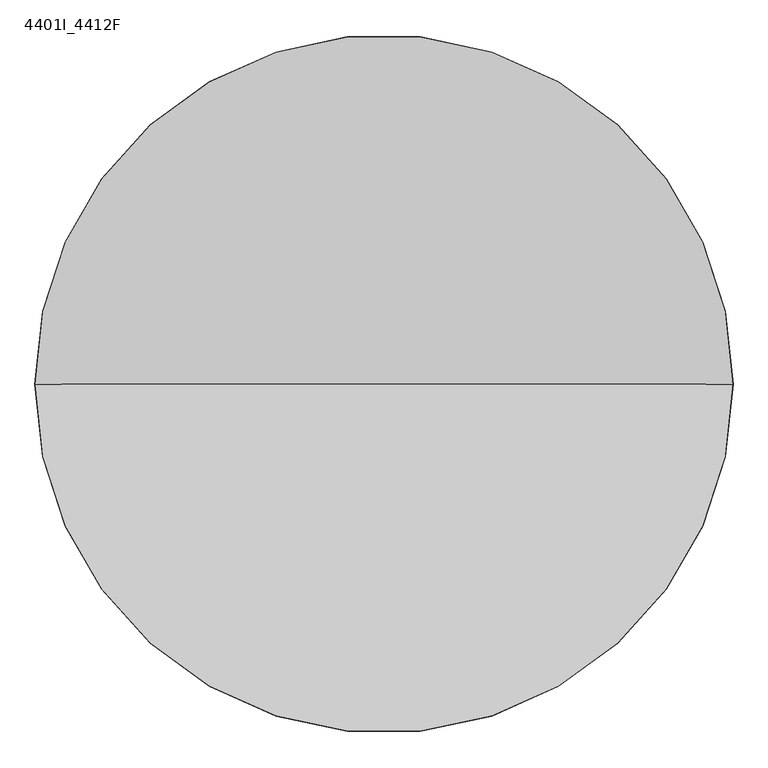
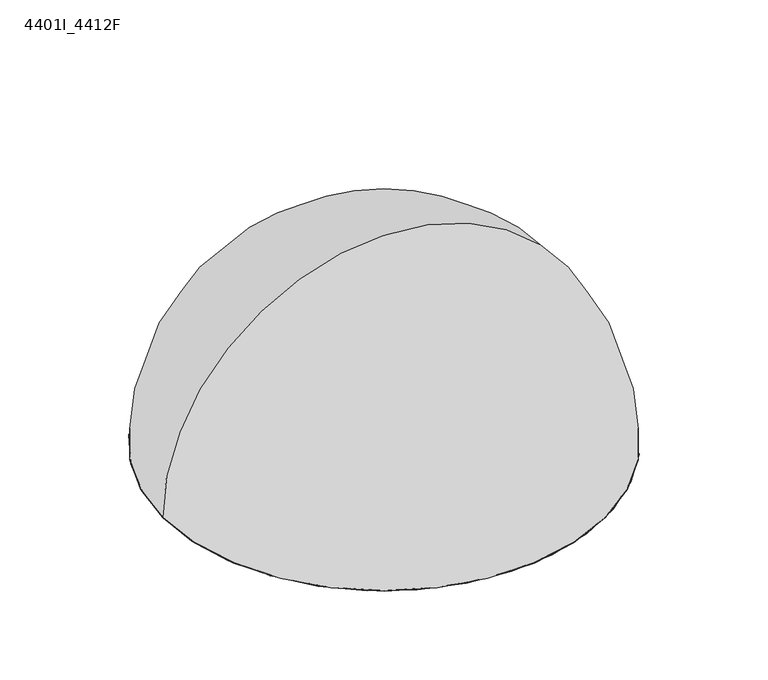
"""IFC4 building model written with IfcOpenShell, lengths in millimetres: alarm geometry, 4401I_Analog Smoke Detector : 4401I_4412F."""

from ifc_helpers import new_model, si_unit, point, frame, origin, origin_with_axes, origin_2d, place, context, project, spatial, polyline, circle_curve, ellipse_curve, trimmed, segment, composite_curve, outline, extrude, source, transform, mapped, element, save
from ifc_brep_helpers import plane_surface, cylinder_surface, revolved_surface, advanced_brep


def alarm_4401i_4412f_19216551(model_context):
    return source(origin(), model_context, "Body", "SolidModel", [
        advanced_brep(
        [(49.4021885, 0.0, 27.3), (-49.4021885, 0.0, 27.3), (-25.0, 0.0, 35.5055913), (25.0, 0.0, 35.5055913), (46.9790343, 0.0, 27.3), (-46.9790343, 0.0, 27.3), (22.5768458, 0.0, 35.5055913), (-22.5768458, 0.0, 35.5055913)],
        [
            (0, 1, circle_curve(frame((0.0, 0.0, 27.3), z_axis=(0.0, 0.0, 1.0), x_axis=(-1.0, 0.0, 0.0)), 49.4021885)),
            (1, 2),
            (2, 3, circle_curve(frame((0.0, 0.0, 35.5055913), z_axis=(0.0, 0.0, -1.0), x_axis=(-1.0, 0.0, 0.0)), 25.0)),
            (3, 0),
            (1, 0, circle_curve(frame((0.0, 0.0, 27.3), z_axis=(0.0, 0.0, 1.0), x_axis=(-1.0, 0.0, 0.0)), 49.4021885)),
            (3, 2, circle_curve(frame((0.0, 0.0, 35.5055913), z_axis=(0.0, 0.0, -1.0), x_axis=(-1.0, 0.0, 0.0)), 25.0)),
            (4, 5, circle_curve(frame((0.0, 0.0, 27.3), z_axis=(0.0, 0.0, 1.0), x_axis=(-1.0, 0.0, 0.0)), 46.9790343)),
            (5, 1),
            (0, 4),
            (5, 4, circle_curve(frame((0.0, 0.0, 27.3), z_axis=(0.0, 0.0, 1.0), x_axis=(-1.0, 0.0, 0.0)), 46.9790343)),
            (6, 7, circle_curve(frame((0.0, 0.0, 35.5055913), z_axis=(0.0, 0.0, 1.0), x_axis=(-1.0, 0.0, 0.0)), 22.5768458)),
            (7, 5),
            (4, 6),
            (7, 6, circle_curve(frame((0.0, 0.0, 35.5055913), z_axis=(0.0, 0.0, 1.0), x_axis=(-1.0, 0.0, 0.0)), 22.5768458)),
            (2, 7),
            (6, 3),
        ],
        [
            revolved_surface(polyline([(-25.0, 0.0, 35.5055913), (-49.4021885, 0.0, 27.3)]), (0.0, 0.0, 2617.6581012), (0.0, 0.0, -1.0)),
            plane_surface(frame((0.0, 0.0, 27.3), z_axis=(0.0, 0.0, -1.0), x_axis=(-1.0, 0.0, 0.0))),
            revolved_surface(polyline([(-46.9790343, 0.0, 27.3), (-22.5768458, 0.0, 35.5055913)]), (0.0, 0.0, 2617.6581012), (0.0, 0.0, -1.0)),
            plane_surface(frame((0.0, 0.0, 35.5055913), z_axis=(0.0, 0.0, 1.0), x_axis=(-1.0, 0.0, 0.0))),
        ],
        [
            (0, [[1, 2, 3, 4]]),
            (0, [[5, -4, 6, -2]]),
            (1, [[7, 8, -1, 9]]),
            (1, [[10, -9, -5, -8]]),
            (2, [[11, 12, -7, 13]]),
            (2, [[14, -13, -10, -12]]),
            (3, [[-3, 15, -11, 16]]),
            (3, [[-6, -16, -14, -15]]),
        ],
    ),
        advanced_brep(
        [(-25.0, 0.0, 48.6055913), (25.0, 0.0, 48.6055913), (-10.2364426, 22.8082275, 35.5055913), (-7.8171012, 23.7464298, 35.5055913), (-6.566365, 19.9470011, 35.5055913), (-0.7601379, 20.9862381, 35.5055913), (-0.7748533, 24.9879892, 35.5055913), (1.8194655, 24.933703, 35.5055913), (1.528351, 20.9443105, 35.5055913), (7.2926143, 19.6930895, 35.5055913), (8.8036125, 23.3986411, 35.5055913), (11.1815896, 22.3600549, 35.5055913), (9.3925353, 18.7824461, 35.5055913), (14.2453716, 15.4294973, 35.5055913), (17.0541691, 18.2799157, 35.5055913), (18.857118, 16.4136864, 35.5055913), (15.8399791, 13.7874966, 35.5055913), (19.0494019, 8.8385682, 35.5055913), (22.7323284, 10.4039053, 35.5055913), (23.688298, 7.9915291, 35.5055913), (19.8981703, 6.7128844, 35.5055913), (20.9800803, 0.9144573, 35.5055913), (24.9816149, 0.9586025, 35.5055913), (25.0, 0.0, 35.5055913), (24.9464097, -1.6360453, 35.5055913), (20.9549841, -1.3742781, 35.5055913), (19.7461893, -7.1475874, 35.5055913), (23.4627531, -8.6312929, 35.5055913), (22.4416834, -11.0168438, 35.5055913), (18.851014, -9.2541488, 35.5055913), (15.5338454, -14.1315126, 35.5055913), (18.4048435, -16.9192711, 35.5055913), (16.5519242, -18.7358962, 35.5055913), (13.9036163, -15.7381528, 35.5055913), (8.978425, -18.9838849, 35.5055913), (10.5708052, -22.6551998, 35.5055913), (8.1655248, -23.628885, 35.5055913), (6.8590408, -19.8482634, 35.5055913), (1.0687273, -20.9727877, 35.5055913), (1.1422999, -24.9738894, 35.5055913), (-1.4525367, -24.9577671, 35.5055913), (-1.2201308, -20.9645243, 35.5055913), (-7.0021739, -19.7982211, 35.5055913), (-8.4585064, -23.5255961, 35.5055913), (-10.8515021, -22.5220981, 35.5055913), (-9.1152617, -18.9185624, 35.5055913), (-14.0168893, -15.6373532, 35.5055913), (-16.7834581, -18.5287758, 35.5055913), (-18.613661, -16.6892667, 35.5055913), (-15.6354753, -14.018984, 35.5055913), (-18.9173411, -9.1177961, 35.5055913), (-22.5768458, -10.7371334, 35.5055913), (-23.5681939, -8.3390788, 35.5055913), (-19.7972829, -7.0048262, 35.5055913), (-20.9643607, -1.2229394, 35.5055913), (-24.9648131, -1.3259355, 35.5055913), (-25.0, 0.0, 35.5055913), (-24.9677746, 1.2689495, 35.5055913), (-20.9729306, 1.0659176, 35.5055913), (-19.8491821, 6.8563817, 35.5055913), (-23.5871666, 8.2852624, 35.5055913), (-22.2772169, 11.3457307, 35.5055913), (-18.7128622, 9.5304138, 35.5055913), (-15.3243147, 14.3584602, 35.5055913), (-18.1539992, 17.1881446, 35.5055913), (-16.2745608, 18.9773199, 35.5055913), (-13.6706311, 15.9409487, 35.5055913), (-8.6982334, 19.1138885, 35.5055913), (-24.9648131, -1.3259355, 44.2055913), (-23.5681939, -8.3390788, 44.2055913), (-22.5768458, -10.7371334, 44.2055913), (-18.613661, -16.6892667, 44.2055913), (-16.7834581, -18.5287758, 44.2055913), (-10.8515021, -22.5220981, 44.2055913), (-8.4585064, -23.5255961, 44.2055913), (-1.4525367, -24.9577671, 44.2055913), (1.1422999, -24.9738894, 44.2055913), (8.1655248, -23.628885, 44.2055913), (10.5708052, -22.6551998, 44.2055913), (16.5519242, -18.7358962, 44.2055913), (18.4048435, -16.9192711, 44.2055913), (22.4416834, -11.0168438, 44.2055913), (23.4627531, -8.6312929, 44.2055913), (24.9464097, -1.6360453, 44.2055913), (24.9816149, 0.9586025, 44.2055913), (23.688298, 7.9915291, 44.2055913), (22.7323284, 10.4039053, 44.2055913), (18.857118, 16.4136864, 44.2055913), (17.0541691, 18.2799157, 44.2055913), (11.1815896, 22.3600549, 44.2055913), (8.8036125, 23.3986411, 44.2055913), (1.8194655, 24.933703, 44.2055913), (-0.7748533, 24.9879892, 44.2055913), (-7.8171012, 23.7464298, 44.2055913), (-10.2364426, 22.8082275, 44.2055913), (-16.2745608, 18.9773199, 44.2055913), (-18.1539992, 17.1881446, 44.2055913), (-22.2772169, 11.3457307, 44.2055913), (-23.5871666, 8.2852624, 44.2055913), (-24.9677746, 1.2689495, 44.2055913), (-8.6982334, 19.1138885, 44.2055913), (-13.6706311, 15.9409487, 44.2055913), (-0.7601379, 20.9862381, 44.2055913), (-6.566365, 19.9470011, 44.2055913), (7.2926143, 19.6930895, 44.2055913), (1.528351, 20.9443105, 44.2055913), (14.2453716, 15.4294973, 44.2055913), (9.3925353, 18.7824461, 44.2055913), (19.0494019, 8.8385682, 44.2055913), (15.8399791, 13.7874966, 44.2055913), (20.9800803, 0.9144573, 44.2055913), (19.8981703, 6.7128844, 44.2055913), (19.7461893, -7.1475874, 44.2055913), (20.9549841, -1.3742781, 44.2055913), (15.5338454, -14.1315126, 44.2055913), (18.851014, -9.2541488, 44.2055913), (8.978425, -18.9838849, 44.2055913), (13.9036163, -15.7381528, 44.2055913), (1.0687273, -20.9727877, 44.2055913), (6.8590408, -19.8482634, 44.2055913), (-7.0021739, -19.7982211, 44.2055913), (-1.2201308, -20.9645243, 44.2055913), (-14.0168893, -15.6373532, 44.2055913), (-9.1152617, -18.9185624, 44.2055913), (-18.9173411, -9.1177961, 44.2055913), (-15.6354753, -14.018984, 44.2055913), (-20.9643607, -1.2229394, 44.2055913), (-19.7972829, -7.0048262, 44.2055913), (-19.8491821, 6.8563817, 44.2055913), (-20.9729306, 1.0659176, 44.2055913), (-15.3243147, 14.3584602, 44.2055913), (-18.7128622, 9.5304138, 44.2055913)],
        [
            (0, 1, circle_curve(frame((0.0, 0.0, 48.6055913), z_axis=(0.0, 0.0, 1.0), x_axis=(1.0, 0.0, 0.0)), 25.0)),
            (1, 0, circle_curve(frame((0.0, 0.0, 48.6055913), z_axis=(0.0, 0.0, 1.0), x_axis=(1.0, 0.0, 0.0)), 25.0)),
            (2, 3, circle_curve(frame((0.0, 0.0, 35.5055913), z_axis=(0.0, 0.0, -1.0), x_axis=(1.0, 0.0, 0.0)), 25.0)),
            (3, 4),
            (4, 5, circle_curve(frame((0.0, 0.0, 35.5055913), z_axis=(0.0, 0.0, -1.0), x_axis=(0.7097021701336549, -0.7045018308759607, 0.0)), 21.0)),
            (5, 6),
            (6, 7, circle_curve(frame((0.0, 0.0, 35.5055913), z_axis=(0.0, 0.0, -1.0), x_axis=(1.0, 0.0, 0.0)), 25.0)),
            (7, 8),
            (8, 9, circle_curve(frame((0.0, 0.0, 35.5055913), z_axis=(0.0, 0.0, -1.0), x_axis=(0.38777352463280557, -0.9217546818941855, 0.0)), 21.0)),
            (9, 10),
            (10, 11, circle_curve(frame((0.0, 0.0, 35.5055913), z_axis=(0.0, 0.0, -1.0), x_axis=(1.0, 0.0, 0.0)), 25.0)),
            (11, 12),
            (12, 13, circle_curve(frame((0.0, 0.0, 35.5055913), z_axis=(0.0, 0.0, -1.0), x_axis=(0.0073543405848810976, -0.9999729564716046, 0.0)), 21.0)),
            (13, 14),
            (14, 15, circle_curve(frame((0.0, 0.0, 35.5055913), z_axis=(0.0, 0.0, -1.0), x_axis=(1.0, 0.0, 0.0)), 25.0)),
            (15, 16),
            (16, 17, circle_curve(frame((0.0, 0.0, 35.5055913), z_axis=(0.0, 0.0, -1.0), x_axis=(-0.3741741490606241, -0.9273584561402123, 0.0)), 21.0)),
            (17, 18),
            (18, 19, circle_curve(frame((0.0, 0.0, 35.5055913), z_axis=(0.0, 0.0, -1.0), x_axis=(1.0, 0.0, 0.0)), 25.0)),
            (19, 20),
            (20, 21, circle_curve(frame((0.0, 0.0, 35.5055913), z_axis=(0.0, 0.0, -1.0), x_axis=(-0.6992633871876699, -0.7148641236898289, 0.0)), 21.0)),
            (21, 22),
            (22, 23, circle_curve(frame((0.0, 0.0, 35.5055913), z_axis=(0.0, 0.0, -1.0), x_axis=(1.0, 0.0, 0.0)), 25.0)),
            (23, 24, circle_curve(frame((0.0, 0.0, 35.5055913), z_axis=(0.0, 0.0, -1.0), x_axis=(1.0, 0.0, 0.0)), 25.0)),
            (24, 25),
            (25, 26, circle_curve(frame((0.0, 0.0, 35.5055913), z_axis=(0.0, 0.0, -1.0), x_axis=(-0.9188779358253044, -0.39454193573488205, 0.0)), 21.0)),
            (26, 27),
            (27, 28, circle_curve(frame((0.0, 0.0, 35.5055913), z_axis=(0.0, 0.0, -1.0), x_axis=(1.0, 0.0, 0.0)), 25.0)),
            (28, 29),
            (29, 30, circle_curve(frame((0.0, 0.0, 35.5055913), z_axis=(0.0, 0.0, -1.0), x_axis=(-0.9998918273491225, -0.014708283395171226, 0.0)), 21.0)),
            (30, 31),
            (31, 32, circle_curve(frame((0.0, 0.0, 35.5055913), z_axis=(0.0, 0.0, -1.0), x_axis=(1.0, 0.0, 0.0)), 25.0)),
            (32, 33),
            (33, 34, circle_curve(frame((0.0, 0.0, 35.5055913), z_axis=(0.0, 0.0, -1.0), x_axis=(-0.9300851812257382, 0.3673439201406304, 0.0)), 21.0)),
            (34, 35),
            (35, 36, circle_curve(frame((0.0, 0.0, 35.5055913), z_axis=(0.0, 0.0, -1.0), x_axis=(1.0, 0.0, 0.0)), 25.0)),
            (36, 37),
            (37, 38, circle_curve(frame((0.0, 0.0, 35.5055913), z_axis=(0.0, 0.0, -1.0), x_axis=(-0.7199874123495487, 0.6939871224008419, 0.0)), 21.0)),
            (38, 39),
            (39, 40, circle_curve(frame((0.0, 0.0, 35.5055913), z_axis=(0.0, 0.0, -1.0), x_axis=(1.0, 0.0, 0.0)), 25.0)),
            (40, 41),
            (41, 42, circle_curve(frame((0.0, 0.0, 35.5055913), z_axis=(0.0, 0.0, -1.0), x_axis=(-0.4012890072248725, 0.9159514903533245, 0.0)), 21.0)),
            (42, 43),
            (43, 44, circle_curve(frame((0.0, 0.0, 35.5055913), z_axis=(0.0, 0.0, -1.0), x_axis=(1.0, 0.0, 0.0)), 25.0)),
            (44, 45),
            (45, 46, circle_curve(frame((0.0, 0.0, 35.5055913), z_axis=(0.0, 0.0, -1.0), x_axis=(-0.022061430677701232, 0.9997566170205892, 0.0)), 21.0)),
            (46, 47),
            (47, 48, circle_curve(frame((0.0, 0.0, 35.5055913), z_axis=(0.0, 0.0, -1.0), x_axis=(1.0, 0.0, 0.0)), 25.0)),
            (48, 49),
            (49, 50, circle_curve(frame((0.0, 0.0, 35.5055913), z_axis=(0.0, 0.0, -1.0), x_axis=(0.36049382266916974, 0.9327616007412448, 0.0)), 21.0)),
            (50, 51),
            (51, 52, circle_curve(frame((0.0, 0.0, 35.5055913), z_axis=(0.0, 0.0, -1.0), x_axis=(1.0, 0.0, 0.0)), 25.0)),
            (52, 53),
            (53, 54, circle_curve(frame((0.0, 0.0, 35.5055913), z_axis=(0.0, 0.0, -1.0), x_axis=(0.6886733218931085, 0.7250717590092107, 0.0)), 21.0)),
            (54, 55),
            (55, 56, circle_curve(frame((0.0, 0.0, 35.5055913), z_axis=(0.0, 0.0, -1.0), x_axis=(1.0, 0.0, 0.0)), 25.0)),
            (56, 57, circle_curve(frame((0.0, 0.0, 35.5055913), z_axis=(0.0, 0.0, -1.0), x_axis=(1.0, 0.0, 0.0)), 25.0)),
            (57, 58),
            (58, 59, circle_curve(frame((0.0, 0.0, 35.5055913), z_axis=(0.0, 0.0, -1.0), x_axis=(0.9129755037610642, 0.4080143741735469, 0.0)), 21.0)),
            (59, 60),
            (60, 61, circle_curve(frame((0.0, 0.0, 35.5055913), z_axis=(0.0, 0.0, -1.0), x_axis=(1.0, 0.0, 0.0)), 25.0)),
            (61, 62),
            (62, 63, circle_curve(frame((0.0, 0.0, 35.5055913), z_axis=(0.0, 0.0, -1.0), x_axis=(1.0, 0.0, 0.0)), 21.0)),
            (63, 64),
            (64, 65, circle_curve(frame((0.0, 0.0, 35.5055913), z_axis=(0.0, 0.0, -1.0), x_axis=(1.0, 0.0, 0.0)), 25.0)),
            (65, 66),
            (66, 67, circle_curve(frame((0.0, 0.0, 35.5055913), z_axis=(0.0, 0.0, -1.0), x_axis=(0.9245815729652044, -0.3809841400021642, 0.0)), 21.0)),
            (67, 2),
            (0, 56),
            (55, 68),
            (68, 69, circle_curve(frame((0.0, 0.0, 44.2055913), z_axis=(0.0, 0.0, 1.0), x_axis=(1.0, 0.0, 0.0)), 25.0)),
            (69, 52),
            (51, 70),
            (70, 71, circle_curve(frame((0.0, 0.0, 44.2055913), z_axis=(0.0, 0.0, 1.0), x_axis=(1.0, 0.0, 0.0)), 25.0)),
            (71, 48),
            (47, 72),
            (72, 73, circle_curve(frame((0.0, 0.0, 44.2055913), z_axis=(0.0, 0.0, 1.0), x_axis=(1.0, 0.0, 0.0)), 25.0)),
            (73, 44),
            (43, 74),
            (74, 75, circle_curve(frame((0.0, 0.0, 44.2055913), z_axis=(0.0, 0.0, 1.0), x_axis=(1.0, 0.0, 0.0)), 25.0)),
            (75, 40),
            (39, 76),
            (76, 77, circle_curve(frame((0.0, 0.0, 44.2055913), z_axis=(0.0, 0.0, 1.0), x_axis=(1.0, 0.0, 0.0)), 25.0)),
            (77, 36),
            (35, 78),
            (78, 79, circle_curve(frame((0.0, 0.0, 44.2055913), z_axis=(0.0, 0.0, 1.0), x_axis=(1.0, 0.0, 0.0)), 25.0)),
            (79, 32),
            (31, 80),
            (80, 81, circle_curve(frame((0.0, 0.0, 44.2055913), z_axis=(0.0, 0.0, 1.0), x_axis=(1.0, 0.0, 0.0)), 25.0)),
            (81, 28),
            (27, 82),
            (82, 83, circle_curve(frame((0.0, 0.0, 44.2055913), z_axis=(0.0, 0.0, 1.0), x_axis=(1.0, 0.0, 0.0)), 25.0)),
            (83, 24),
            (23, 1),
            (22, 84),
            (84, 85, circle_curve(frame((0.0, 0.0, 44.2055913), z_axis=(0.0, 0.0, 1.0), x_axis=(1.0, 0.0, 0.0)), 25.0)),
            (85, 19),
            (18, 86),
            (86, 87, circle_curve(frame((0.0, 0.0, 44.2055913), z_axis=(0.0, 0.0, 1.0), x_axis=(1.0, 0.0, 0.0)), 25.0)),
            (87, 15),
            (14, 88),
            (88, 89, circle_curve(frame((0.0, 0.0, 44.2055913), z_axis=(0.0, 0.0, 1.0), x_axis=(1.0, 0.0, 0.0)), 25.0)),
            (89, 11),
            (10, 90),
            (90, 91, circle_curve(frame((0.0, 0.0, 44.2055913), z_axis=(0.0, 0.0, 1.0), x_axis=(1.0, 0.0, 0.0)), 25.0)),
            (91, 7),
            (6, 92),
            (92, 93, circle_curve(frame((0.0, 0.0, 44.2055913), z_axis=(0.0, 0.0, 1.0), x_axis=(1.0, 0.0, 0.0)), 25.0)),
            (93, 3),
            (2, 94),
            (94, 95, circle_curve(frame((0.0, 0.0, 44.2055913), z_axis=(0.0, 0.0, 1.0), x_axis=(1.0, 0.0, 0.0)), 25.0)),
            (95, 65),
            (64, 96),
            (96, 97, circle_curve(frame((0.0, 0.0, 44.2055913), z_axis=(0.0, 0.0, 1.0), x_axis=(1.0, 0.0, 0.0)), 25.0)),
            (97, 61),
            (60, 98),
            (98, 99, circle_curve(frame((0.0, 0.0, 44.2055913), z_axis=(0.0, 0.0, 1.0), x_axis=(1.0, 0.0, 0.0)), 25.0)),
            (99, 57),
            (100, 101, circle_curve(frame((0.0, 0.0, 44.2055913), z_axis=(0.0, 0.0, 1.0), x_axis=(0.9245815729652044, -0.3809841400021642, 0.0)), 21.0)),
            (101, 95),
            (94, 100),
            (102, 103, circle_curve(frame((0.0, 0.0, 44.2055913), z_axis=(0.0, 0.0, 1.0), x_axis=(0.7097021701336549, -0.7045018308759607, 0.0)), 21.0)),
            (103, 93),
            (92, 102),
            (104, 105, circle_curve(frame((0.0, 0.0, 44.2055913), z_axis=(0.0, 0.0, 1.0), x_axis=(0.38777352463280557, -0.9217546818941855, 0.0)), 21.0)),
            (105, 91),
            (90, 104),
            (106, 107, circle_curve(frame((0.0, 0.0, 44.2055913), z_axis=(0.0, 0.0, 1.0), x_axis=(0.0073543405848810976, -0.9999729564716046, 0.0)), 21.0)),
            (107, 89),
            (88, 106),
            (108, 109, circle_curve(frame((0.0, 0.0, 44.2055913), z_axis=(0.0, 0.0, 1.0), x_axis=(-0.3741741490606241, -0.9273584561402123, 0.0)), 21.0)),
            (109, 87),
            (86, 108),
            (110, 111, circle_curve(frame((0.0, 0.0, 44.2055913), z_axis=(0.0, 0.0, 1.0), x_axis=(-0.6992633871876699, -0.7148641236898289, 0.0)), 21.0)),
            (111, 85),
            (84, 110),
            (112, 113, circle_curve(frame((0.0, 0.0, 44.2055913), z_axis=(0.0, 0.0, 1.0), x_axis=(-0.9188779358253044, -0.39454193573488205, 0.0)), 21.0)),
            (113, 83),
            (82, 112),
            (114, 115, circle_curve(frame((0.0, 0.0, 44.2055913), z_axis=(0.0, 0.0, 1.0), x_axis=(-0.9998918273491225, -0.014708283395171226, 0.0)), 21.0)),
            (115, 81),
            (80, 114),
            (116, 117, circle_curve(frame((0.0, 0.0, 44.2055913), z_axis=(0.0, 0.0, 1.0), x_axis=(-0.9300851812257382, 0.3673439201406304, 0.0)), 21.0)),
            (117, 79),
            (78, 116),
            (118, 119, circle_curve(frame((0.0, 0.0, 44.2055913), z_axis=(0.0, 0.0, 1.0), x_axis=(-0.7199874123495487, 0.6939871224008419, 0.0)), 21.0)),
            (119, 77),
            (76, 118),
            (120, 121, circle_curve(frame((0.0, 0.0, 44.2055913), z_axis=(0.0, 0.0, 1.0), x_axis=(-0.4012890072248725, 0.9159514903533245, 0.0)), 21.0)),
            (121, 75),
            (74, 120),
            (122, 123, circle_curve(frame((0.0, 0.0, 44.2055913), z_axis=(0.0, 0.0, 1.0), x_axis=(-0.022061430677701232, 0.9997566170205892, 0.0)), 21.0)),
            (123, 73),
            (72, 122),
            (124, 125, circle_curve(frame((0.0, 0.0, 44.2055913), z_axis=(0.0, 0.0, 1.0), x_axis=(0.36049382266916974, 0.9327616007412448, 0.0)), 21.0)),
            (125, 71),
            (70, 124),
            (126, 127, circle_curve(frame((0.0, 0.0, 44.2055913), z_axis=(0.0, 0.0, 1.0), x_axis=(0.6886733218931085, 0.7250717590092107, 0.0)), 21.0)),
            (127, 69),
            (68, 126),
            (128, 129, circle_curve(frame((0.0, 0.0, 44.2055913), z_axis=(0.0, 0.0, 1.0), x_axis=(0.9129755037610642, 0.4080143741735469, 0.0)), 21.0)),
            (129, 99),
            (98, 128),
            (130, 131, circle_curve(frame((0.0, 0.0, 44.2055913), z_axis=(0.0, 0.0, 1.0), x_axis=(1.0, 0.0, 0.0)), 21.0)),
            (131, 97),
            (96, 130),
            (100, 67),
            (66, 101),
            (102, 5),
            (4, 103),
            (104, 9),
            (8, 105),
            (106, 13),
            (12, 107),
            (108, 17),
            (16, 109),
            (110, 21),
            (20, 111),
            (26, 112),
            (113, 25),
            (30, 114),
            (115, 29),
            (34, 116),
            (117, 33),
            (119, 37),
            (118, 38),
            (42, 120),
            (121, 41),
            (46, 122),
            (123, 45),
            (125, 49),
            (124, 50),
            (127, 53),
            (126, 54),
            (128, 59),
            (58, 129),
            (130, 63),
            (62, 131),
        ],
        [
            plane_surface(frame((25.0, 0.0, 48.6055913), z_axis=(0.0, 0.0, 1.0), x_axis=(0.0, 1.0, 0.0))),
            plane_surface(frame((25.0, 0.0, 35.5055913), z_axis=(0.0, 0.0, -1.0), x_axis=(0.0, -1.0, 0.0))),
            cylinder_surface(frame((0.0, 0.0, 35.5055913), z_axis=(0.0, 0.0, 1.0), x_axis=(1.0, 0.0, 0.0)), 25.0),
            plane_surface(frame((19.416213, -8.0006669, 44.2055913), z_axis=(0.0, 0.0, -1.0), x_axis=(-0.38098414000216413, -0.9245815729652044, 0.0))),
            cylinder_surface(frame((0.0, 0.0, 35.5055913), z_axis=(0.0, 0.0, -1.0000000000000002), x_axis=(0.9245815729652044, -0.3809841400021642, 0.0)), 21.0),
            plane_surface(frame((-8.6982334, 19.1138885, 44.2055913), z_axis=(-0.9231743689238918, -0.3843814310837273, 0.0), x_axis=(0.0, 0.0, -1.0))),
            plane_surface(frame((-18.8784906, 22.0136911, 44.2055913), z_axis=(0.7590927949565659, 0.6509824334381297, 0.0), x_axis=(0.0, 0.0, -1.0))),
            cylinder_surface(frame((0.0, 0.0, 8.6), z_axis=(0.0, 0.0, -1.0), x_axis=(0.7097021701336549, -0.7045018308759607, 0.0)), 21.0),
            plane_surface(frame((-0.7601379, 20.9862381, 44.2055913), z_axis=(-0.9999932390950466, -0.0036771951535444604, 0.0), x_axis=(0.0, 0.0, -1.0))),
            plane_surface(frame((-9.0678374, 27.5458586, 44.2055913), z_axis=(0.9498571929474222, 0.3126840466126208, 0.0), x_axis=(0.0, 0.0, -1.0))),
            cylinder_surface(frame((0.0, 0.0, 8.6), z_axis=(0.0, 0.0, -1.0000000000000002), x_axis=(0.38777352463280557, -0.9217546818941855, 0.0)), 21.0),
            plane_surface(frame((7.2926143, 19.6930895, 44.2055913), z_axis=(-0.9259762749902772, 0.37758169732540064, 0.0), x_axis=(0.0, 0.0, -1.0))),
            plane_surface(frame((2.1105799, 28.9230955, 44.2055913), z_axis=(0.9973481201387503, -0.07277861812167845, 0.0), x_axis=(0.0, 0.0, -1.0))),
            cylinder_surface(frame((0.0, 0.0, 8.6), z_axis=(0.0, 0.0, -1.0), x_axis=(0.0073543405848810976, -0.9999729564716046, 0.0)), 21.0),
            plane_surface(frame((14.2453716, 15.4294973, 44.2055913), z_axis=(-0.7122879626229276, 0.7018873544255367, 0.0), x_axis=(0.0, 0.0, -1.0))),
            plane_surface(frame((12.970644, 25.9376636, 44.2055913), z_axis=(0.8944021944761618, -0.44726358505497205, 0.0), x_axis=(0.0, 0.0, -1.0))),
            cylinder_surface(frame((0.0, 0.0, 8.6), z_axis=(0.0, 0.0, -1.0000000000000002), x_axis=(-0.3741741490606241, -0.9273584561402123, 0.0)), 21.0),
            plane_surface(frame((19.0494019, 8.8385682, 44.2055913), z_axis=(-0.39116037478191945, 0.9203225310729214, 0.0), x_axis=(0.0, 0.0, -1.0))),
            plane_surface(frame((21.8742569, 19.0398762, 44.2055913), z_axis=(0.6565474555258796, -0.7542847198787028, 0.0), x_axis=(0.0, 0.0, -1.0))),
            cylinder_surface(frame((0.0, 0.0, 8.6), z_axis=(0.0, 0.0, -1.0), x_axis=(-0.6992633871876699, -0.7148641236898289, 0.0)), 21.0),
            plane_surface(frame((20.9800803, 0.9144573, 44.2055913), z_axis=(-0.011031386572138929, 0.999939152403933, 0.0), x_axis=(0.0, 0.0, -1.0))),
            plane_surface(frame((27.4784257, 9.2701738, 44.2055913), z_axis=(0.3196611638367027, -0.9475319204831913, 0.0), x_axis=(0.0, 0.0, -1.0))),
            plane_surface(frame((19.7461893, -7.1475874, 44.2055913), z_axis=(0.37076154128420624, 0.9287280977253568, 0.0), x_axis=(0.0, 0.0, -1.0))),
            plane_surface(frame((28.9378352, -1.8978126, 44.2055913), z_axis=(-0.06544181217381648, -0.9978563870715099, 0.0), x_axis=(0.0, 0.0, -1.0))),
            cylinder_surface(frame((0.0, 0.0, 8.6), z_axis=(0.0, 0.0, -1.0), x_axis=(-0.9188779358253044, -0.39454193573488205, 0.0)), 21.0),
            plane_surface(frame((15.5338454, -14.1315126, 44.2055913), z_axis=(0.6966299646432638, 0.7174306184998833, 0.0), x_axis=(0.0, 0.0, -1.0))),
            plane_surface(frame((26.0323527, -12.7795388, 44.2055913), z_axis=(-0.44067375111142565, -0.8976673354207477, 0.0), x_axis=(0.0, 0.0, -1.0))),
            cylinder_surface(frame((0.0, 0.0, 8.6), z_axis=(0.0, 0.0, -1.0), x_axis=(-0.9998918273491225, -0.014708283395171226, 0.0)), 21.0),
            plane_surface(frame((8.978425, -18.9838849, 44.2055913), z_axis=(0.9174209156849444, 0.39791816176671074, 0.0), x_axis=(0.0, 0.0, -1.0))),
            plane_surface(frame((19.200232, -21.7336396, 44.2055913), z_axis=(-0.7494358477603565, -0.6620769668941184, 0.0), x_axis=(0.0, 0.0, -1.0))),
            cylinder_surface(frame((0.0, 0.0, 8.6), z_axis=(0.0, 0.0, -1.0000000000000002), x_axis=(-0.9300851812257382, 0.3673439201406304, 0.0)), 21.0),
            plane_surface(frame((9.4720088, -27.4095066, 44.2055913), z_axis=(-0.945155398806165, -0.3266209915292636, 0.0), x_axis=(0.0, 0.0, -1.0))),
            cylinder_surface(frame((0.0, 0.0, 8.6), z_axis=(0.0, 0.0, -1.0000000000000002), x_axis=(-0.7199874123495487, 0.6939871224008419, 0.0)), 21.0),
            plane_surface(frame((1.0687273, -20.9727877, 44.2055913), z_axis=(0.9998309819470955, 0.01838498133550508, 0.0), x_axis=(0.0, 0.0, -1.0))),
            plane_surface(frame((-7.0021739, -19.7982211, 44.2055913), z_axis=(0.9314296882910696, -0.3639213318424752, 0.0), x_axis=(0.0, 0.0, -1.0))),
            plane_surface(frame((-1.6849425, -28.9510098, 44.2055913), z_axis=(-0.9983106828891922, 0.058101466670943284, 0.0), x_axis=(0.0, 0.0, -1.0))),
            cylinder_surface(frame((0.0, 0.0, 8.6), z_axis=(0.0, 0.0, -1.0), x_axis=(-0.4012890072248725, 0.9159514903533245, 0.0)), 21.0),
            plane_surface(frame((-14.0168893, -15.6373532, 44.2055913), z_axis=(0.7225344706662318, -0.691334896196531, 0.0), x_axis=(0.0, 0.0, -1.0))),
            plane_surface(frame((-12.5877424, -26.1256338, 44.2055913), z_axis=(-0.9008839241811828, 0.43406008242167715, 0.0), x_axis=(0.0, 0.0, -1.0))),
            cylinder_surface(frame((0.0, 0.0, 8.6), z_axis=(0.0, 0.0, -1.0), x_axis=(-0.022061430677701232, 0.9997566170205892, 0.0)), 21.0),
            plane_surface(frame((-21.5918468, -19.3595494, 44.2055913), z_axis=(-0.6675706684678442, 0.7445464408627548, 0.0), x_axis=(0.0, 0.0, -1.0))),
            cylinder_surface(frame((0.0, 0.0, 8.6), z_axis=(0.0, 0.0, -1.0000000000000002), x_axis=(0.36049382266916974, 0.9327616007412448, 0.0)), 21.0),
            plane_surface(frame((-18.9173411, -9.1177961, 44.2055913), z_axis=(0.4046544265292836, -0.914469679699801, 0.0), x_axis=(0.0, 0.0, -1.0))),
            plane_surface(frame((-27.3391049, -9.6733314, 44.2055913), z_axis=(-0.3335631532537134, 0.9427277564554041, 0.0), x_axis=(0.0, 0.0, -1.0))),
            cylinder_surface(frame((0.0, 0.0, 8.6), z_axis=(0.0, 0.0, -1.0), x_axis=(0.6886733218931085, 0.7250717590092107, 0.0)), 21.0),
            plane_surface(frame((-20.9643607, -1.2229394, 44.2055913), z_axis=(0.025737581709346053, -0.9996687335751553, 0.0), x_axis=(0.0, 0.0, -1.0))),
            cylinder_surface(frame((0.0, 0.0, 8.6), z_axis=(0.0, 0.0, -1.0), x_axis=(0.9129755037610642, 0.4080143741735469, 0.0)), 21.0),
            plane_surface(frame((-19.8491821, 6.8563817, 44.2055913), z_axis=(-0.35706143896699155, -0.9340809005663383, 0.0), x_axis=(0.0, 0.0, -1.0))),
            plane_surface(frame((-28.9626185, 1.4719814, 44.2055913), z_axis=(0.05075797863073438, 0.998710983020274, 0.0), x_axis=(0.0, 0.0, -1.0))),
            cylinder_surface(frame((0.0, 0.0, 8.6), z_axis=(0.0, 0.0, -1.0), x_axis=(1.0, 0.0, 0.0)), 21.0),
            plane_surface(frame((-15.3243147, 14.3584602, 44.2055913), z_axis=(-0.7071067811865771, -0.7071067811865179, 0.0), x_axis=(0.0, 0.0, -1.0))),
            plane_surface(frame((-25.8415717, 13.1610476, 44.2055913), z_axis=(0.45382922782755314, 0.8910886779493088, 0.0), x_axis=(0.0, 0.0, -1.0))),
        ],
        [
            (0, [[1, 2]]),
            (1, [[3, 4, 5, 6, 7, 8, 9, 10, 11, 12, 13, 14, 15, 16, 17, 18, 19, 20, 21, 22, 23, 24, 25, 26, 27, 28, 29, 30, 31, 32, 33, 34, 35, 36, 37, 38, 39, 40, 41, 42, 43, 44, 45, 46, 47, 48, 49, 50, 51, 52, 53, 54, 55, 56, 57, 58, 59, 60, 61, 62, 63, 64, 65, 66, 67, 68]]),
            (2, [[-1, 69, -56, 70, 71, 72, -52, 73, 74, 75, -48, 76, 77, 78, -44, 79, 80, 81, -40, 82, 83, 84, -36, 85, 86, 87, -32, 88, 89, 90, -28, 91, 92, 93, -24, 94]]),
            (2, [[-2, -94, -23, 95, 96, 97, -19, 98, 99, 100, -15, 101, 102, 103, -11, 104, 105, 106, -7, 107, 108, 109, -3, 110, 111, 112, -65, 113, 114, 115, -61, 116, 117, 118, -57, -69]]),
            (3, [[119, 120, -111, 121]]),
            (3, [[122, 123, -108, 124]]),
            (3, [[125, 126, -105, 127]]),
            (3, [[128, 129, -102, 130]]),
            (3, [[131, 132, -99, 133]]),
            (3, [[134, 135, -96, 136]]),
            (3, [[137, 138, -92, 139]]),
            (3, [[140, 141, -89, 142]]),
            (3, [[143, 144, -86, 145]]),
            (3, [[146, 147, -83, 148]]),
            (3, [[149, 150, -80, 151]]),
            (3, [[152, 153, -77, 154]]),
            (3, [[155, 156, -74, 157]]),
            (3, [[158, 159, -71, 160]]),
            (3, [[161, 162, -117, 163]]),
            (3, [[164, 165, -114, 166]]),
            (4, [[-119, 167, -67, 168]]),
            (5, [[-167, -121, -110, -68]]),
            (6, [[-168, -66, -112, -120]]),
            (7, [[-122, 169, -5, 170]]),
            (8, [[-169, -124, -107, -6]]),
            (9, [[-170, -4, -109, -123]]),
            (10, [[-125, 171, -9, 172]]),
            (11, [[-171, -127, -104, -10]]),
            (12, [[-172, -8, -106, -126]]),
            (13, [[-128, 173, -13, 174]]),
            (14, [[-173, -130, -101, -14]]),
            (15, [[-174, -12, -103, -129]]),
            (16, [[-131, 175, -17, 176]]),
            (17, [[-175, -133, -98, -18]]),
            (18, [[-176, -16, -100, -132]]),
            (19, [[-134, 177, -21, 178]]),
            (20, [[-177, -136, -95, -22]]),
            (21, [[-178, -20, -97, -135]]),
            (22, [[179, -139, -91, -27]]),
            (23, [[180, -25, -93, -138]]),
            (24, [[-137, -179, -26, -180]]),
            (25, [[181, -142, -88, -31]]),
            (26, [[182, -29, -90, -141]]),
            (27, [[-140, -181, -30, -182]]),
            (28, [[183, -145, -85, -35]]),
            (29, [[184, -33, -87, -144]]),
            (30, [[-143, -183, -34, -184]]),
            (31, [[185, -37, -84, -147]]),
            (32, [[-146, 186, -38, -185]]),
            (33, [[-186, -148, -82, -39]]),
            (34, [[187, -151, -79, -43]]),
            (35, [[188, -41, -81, -150]]),
            (36, [[-149, -187, -42, -188]]),
            (37, [[189, -154, -76, -47]]),
            (38, [[190, -45, -78, -153]]),
            (39, [[-152, -189, -46, -190]]),
            (40, [[191, -49, -75, -156]]),
            (41, [[-155, 192, -50, -191]]),
            (42, [[-192, -157, -73, -51]]),
            (43, [[193, -53, -72, -159]]),
            (44, [[-158, 194, -54, -193]]),
            (45, [[-194, -160, -70, -55]]),
            (46, [[-161, 195, -59, 196]]),
            (47, [[-195, -163, -116, -60]]),
            (48, [[-196, -58, -118, -162]]),
            (49, [[-164, 197, -63, 198]]),
            (50, [[-197, -166, -113, -64]]),
            (51, [[-198, -62, -115, -165]]),
        ],
    ),
        advanced_brep(
        [(25.0, 0.0, 27.3), (-25.0, 0.0, 27.3), (-25.0, 0.0, 25.6), (25.0, 0.0, 25.6), (49.4021885, 0.0, 27.3), (-49.4021885, 0.0, 27.3), (51.0000836, 0.0, 25.6), (-51.0000836, 0.0, 25.6)],
        [
            (0, 1, circle_curve(frame((0.0, 0.0, 27.3), z_axis=(0.0, 0.0, 1.0), x_axis=(-1.0, 0.0, 0.0)), 25.0)),
            (1, 2),
            (2, 3, circle_curve(frame((0.0, 0.0, 25.6), z_axis=(0.0, 0.0, -1.0), x_axis=(-1.0, 0.0, 0.0)), 25.0)),
            (3, 0),
            (1, 0, circle_curve(frame((0.0, 0.0, 27.3), z_axis=(0.0, 0.0, 1.0), x_axis=(-1.0, 0.0, 0.0)), 25.0)),
            (3, 2, circle_curve(frame((0.0, 0.0, 25.6), z_axis=(0.0, 0.0, -1.0), x_axis=(-1.0, 0.0, 0.0)), 25.0)),
            (4, 5, circle_curve(frame((0.0, 0.0, 27.3), z_axis=(0.0, 0.0, 1.0), x_axis=(-1.0, 0.0, 0.0)), 49.4021885)),
            (5, 1),
            (0, 4),
            (5, 4, circle_curve(frame((0.0, 0.0, 27.3), z_axis=(0.0, 0.0, 1.0), x_axis=(-1.0, 0.0, 0.0)), 49.4021885)),
            (6, 7, circle_curve(frame((0.0, 0.0, 25.6), z_axis=(0.0, 0.0, 1.0), x_axis=(-1.0, 0.0, 0.0)), 51.0000836)),
            (7, 5, circle_curve(frame((-49.2482507, 0.0, 25.5543466), z_axis=(0.0, 1.0, 0.0), x_axis=(1.0, 0.0, 0.0)), 1.7524276)),
            (4, 6, circle_curve(frame((49.2482507, 0.0, 25.5543466), z_axis=(0.0, 1.0, 0.0), x_axis=(-1.0, 0.0, 0.0)), 1.7524276)),
            (7, 6, circle_curve(frame((0.0, 0.0, 25.6), z_axis=(0.0, 0.0, 1.0), x_axis=(-1.0, 0.0, 0.0)), 51.0000836)),
            (2, 7),
            (6, 3),
        ],
        [
            revolved_surface(polyline([(-25.0, 0.0, 25.59999999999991), (-25.0, 0.0, 27.300000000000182)]), (0.0, 0.0, 2617.6581012), (0.0, 0.0, -1.0)),
            plane_surface(frame((0.0, 0.0, 27.3), z_axis=(0.0, 0.0, 1.0), x_axis=(-1.0, 0.0, 0.0))),
            revolved_surface(trimmed(ellipse_curve(frame((-49.2482507, 0.0, 25.5543466), z_axis=(0.0, -1.0, 0.0), x_axis=(1.0, 0.0, 0.0)), 1.7524276, 1.7524276), [point((-49.4021885, 0.0, 27.3))], [point((-51.0000836, 0.0, 25.6))], True, "CARTESIAN"), (0.0, 0.0, 2617.6581012), (0.0, 0.0, -1.0)),
            plane_surface(frame((0.0, 0.0, 25.6), z_axis=(0.0, 0.0, -1.0), x_axis=(-1.0, 0.0, 0.0))),
        ],
        [
            (0, [[1, 2, 3, 4]]),
            (0, [[5, -4, 6, -2]]),
            (1, [[7, 8, -1, 9]]),
            (1, [[10, -9, -5, -8]]),
            (2, [[11, 12, -7, 13]]),
            (2, [[14, -13, -10, -12]]),
            (3, [[-3, 15, -11, 16]]),
            (3, [[-6, -16, -14, -15]]),
        ],
    ),
        extrude(outline(composite_curve([segment(trimmed(circle_curve(origin_2d(), 51.0), [point((-51.0, 0.0))], [point((51.0, 0.0))], False, "CARTESIAN"), True, "CONTINUOUS"), segment(trimmed(circle_curve(origin_2d(), 51.0), [point((51.0, 0.0))], [point((-51.0, 0.0))], False, "CARTESIAN"), True, "CONTINUOUS")], self_intersect=False), holes=[composite_curve([segment(trimmed(circle_curve(origin_2d(), 25.0), [point((-25.0, 0.0))], [point((25.0, 0.0))], True, "CARTESIAN"), True, "CONTINUOUS"), segment(trimmed(circle_curve(origin_2d(), 25.0), [point((25.0, 0.0))], [point((-25.0, 0.0))], True, "CARTESIAN"), True, "CONTINUOUS")], self_intersect=False)]), frame((0.0, 0.0, 14.6), z_axis=(0.0, 0.0, 1.0), x_axis=(1.0, 0.0, 0.0)), (0.0, 0.0, 1.0), 11.0),
        advanced_brep(
        [(-29.5, -2.5, 0.0), (-29.5, -2.5, 14.6), (-27.0, 0.0, 14.6), (-29.5, 2.5, 14.6), (-29.5, 2.5, 0.0), (-27.0, 0.0, 0.0), (-39.0, 2.5, 14.6), (-39.0, 2.5, 0.0), (-41.5, 0.0, 14.6), (-39.0, -2.5, 14.6), (-39.0, -2.5, 0.0), (-41.5, 0.0, 0.0), (29.5, -2.5, 0.0), (29.5, -2.5, 14.6), (39.0, -2.5, 14.6), (39.0, -2.5, 0.0), (41.5, 0.0, 14.6), (39.0, 2.5, 14.6), (39.0, 2.5, 0.0), (41.5, 0.0, 0.0), (29.5, 2.5, 14.6), (29.5, 2.5, 0.0), (27.0, 0.0, 0.0), (27.0, 0.0, 14.6), (51.0, 0.0, 14.6), (-51.0, 0.0, 14.6), (-48.5, 0.0, 14.6), (48.5, 0.0, 14.6), (51.0, 0.0, 0.0), (-51.0, 0.0, 0.0), (19.0126301, 0.0, 0.0), (-19.0126301, 0.0, 0.0), (44.5, 0.0, 14.6), (-44.5, 0.0, 14.6), (-19.0126301, 0.0, 14.6), (19.0126301, 0.0, 14.6), (44.5, 0.0, 23.3), (-44.5, 0.0, 23.3), (48.5, 0.0, 23.3), (-48.5, 0.0, 23.3)],
        [
            (0, 1),
            (1, 2, circle_curve(frame((-29.5, 0.0, 14.6), z_axis=(0.0, 0.0, 1.0), x_axis=(1.0, 0.0, 0.0)), 2.5)),
            (2, 3, circle_curve(frame((-29.5, 0.0, 14.6), z_axis=(0.0, 0.0, 1.0), x_axis=(1.0, 0.0, 0.0)), 2.5)),
            (3, 4),
            (4, 5, circle_curve(frame((-29.5, 0.0, 0.0), z_axis=(0.0, 0.0, -1.0), x_axis=(1.0, 0.0, 0.0)), 2.5)),
            (5, 0, circle_curve(frame((-29.5, 0.0, 0.0), z_axis=(0.0, 0.0, -1.0), x_axis=(1.0, 0.0, 0.0)), 2.5)),
            (3, 6),
            (6, 7),
            (7, 4),
            (6, 8, circle_curve(frame((-39.0, 0.0, 14.6), z_axis=(0.0, 0.0, 1.0), x_axis=(1.0, 0.0, 0.0)), 2.5)),
            (8, 9, circle_curve(frame((-39.0, 0.0, 14.6), z_axis=(0.0, 0.0, 1.0), x_axis=(1.0, 0.0, 0.0)), 2.5)),
            (9, 10),
            (10, 11, circle_curve(frame((-39.0, 0.0, 0.0), z_axis=(0.0, 0.0, -1.0), x_axis=(1.0, 0.0, 0.0)), 2.5)),
            (11, 7, circle_curve(frame((-39.0, 0.0, 0.0), z_axis=(0.0, 0.0, -1.0), x_axis=(1.0, 0.0, 0.0)), 2.5)),
            (0, 10),
            (9, 1),
            (12, 13),
            (13, 14),
            (14, 15),
            (15, 12),
            (14, 16, circle_curve(frame((39.0, 0.0, 14.6), z_axis=(0.0, 0.0, 1.0), x_axis=(1.0, 0.0, 0.0)), 2.5)),
            (16, 17, circle_curve(frame((39.0, 0.0, 14.6), z_axis=(0.0, 0.0, 1.0), x_axis=(1.0, 0.0, 0.0)), 2.5)),
            (17, 18),
            (18, 19, circle_curve(frame((39.0, 0.0, 0.0), z_axis=(0.0, 0.0, -1.0), x_axis=(1.0, 0.0, 0.0)), 2.5)),
            (19, 15, circle_curve(frame((39.0, 0.0, 0.0), z_axis=(0.0, 0.0, -1.0), x_axis=(1.0, 0.0, 0.0)), 2.5)),
            (17, 20),
            (20, 21),
            (21, 18),
            (12, 22, circle_curve(frame((29.5, 0.0, 0.0), z_axis=(0.0, 0.0, -1.0), x_axis=(1.0, 0.0, 0.0)), 2.5)),
            (22, 21, circle_curve(frame((29.5, 0.0, 0.0), z_axis=(0.0, 0.0, -1.0), x_axis=(1.0, 0.0, 0.0)), 2.5)),
            (20, 23, circle_curve(frame((29.5, 0.0, 14.6), z_axis=(0.0, 0.0, 1.0), x_axis=(1.0, 0.0, 0.0)), 2.5)),
            (23, 13, circle_curve(frame((29.5, 0.0, 14.6), z_axis=(0.0, 0.0, 1.0), x_axis=(1.0, 0.0, 0.0)), 2.5)),
            (24, 25, circle_curve(frame((0.0, 0.0, 14.6), z_axis=(0.0, 0.0, 1.0), x_axis=(-1.0, 0.0, 0.0)), 51.0)),
            (25, 26),
            (26, 27, circle_curve(frame((0.0, 0.0, 14.6), z_axis=(0.0, 0.0, -1.0), x_axis=(-1.0, 0.0, 0.0)), 48.5)),
            (27, 24),
            (25, 24, circle_curve(frame((0.0, 0.0, 14.6), z_axis=(0.0, 0.0, 1.0), x_axis=(-1.0, 0.0, 0.0)), 51.0)),
            (27, 26, circle_curve(frame((0.0, 0.0, 14.6), z_axis=(0.0, 0.0, -1.0), x_axis=(-1.0, 0.0, 0.0)), 48.5)),
            (24, 28),
            (28, 29, circle_curve(frame((0.0, 0.0, 0.0), z_axis=(0.0, 0.0, 1.0), x_axis=(-1.0, 0.0, 0.0)), 51.0)),
            (29, 25),
            (29, 28, circle_curve(frame((0.0, 0.0, 0.0), z_axis=(0.0, 0.0, 1.0), x_axis=(-1.0, 0.0, 0.0)), 51.0)),
            (28, 19),
            (22, 30),
            (30, 31, circle_curve(origin_with_axes(), 19.0126301)),
            (31, 5),
            (11, 29),
            (31, 30, circle_curve(origin_with_axes(), 19.0126301)),
            (32, 33, circle_curve(frame((0.0, 0.0, 14.6), z_axis=(0.0, 0.0, 1.0), x_axis=(-1.0, 0.0, 0.0)), 44.5)),
            (33, 8),
            (2, 34),
            (34, 35, circle_curve(frame((0.0, 0.0, 14.6), z_axis=(0.0, 0.0, -1.0), x_axis=(1.0, 0.0, 0.0)), 19.0126301)),
            (35, 23),
            (16, 32),
            (33, 32, circle_curve(frame((0.0, 0.0, 14.6), z_axis=(0.0, 0.0, 1.0), x_axis=(-1.0, 0.0, 0.0)), 44.5)),
            (35, 34, circle_curve(frame((0.0, 0.0, 14.6), z_axis=(0.0, 0.0, -1.0), x_axis=(1.0, 0.0, 0.0)), 19.0126301)),
            (32, 36),
            (36, 37, circle_curve(frame((0.0, 0.0, 23.3), z_axis=(0.0, 0.0, 1.0), x_axis=(-1.0, 0.0, 0.0)), 44.5)),
            (37, 33),
            (37, 36, circle_curve(frame((0.0, 0.0, 23.3), z_axis=(0.0, 0.0, 1.0), x_axis=(-1.0, 0.0, 0.0)), 44.5)),
            (36, 38),
            (38, 39, circle_curve(frame((0.0, 0.0, 23.3), z_axis=(0.0, 0.0, 1.0), x_axis=(-1.0, 0.0, 0.0)), 48.5)),
            (39, 37),
            (39, 38, circle_curve(frame((0.0, 0.0, 23.3), z_axis=(0.0, 0.0, 1.0), x_axis=(-1.0, 0.0, 0.0)), 48.5)),
            (26, 39),
            (38, 27),
            (31, 34),
            (35, 30),
        ],
        [
            revolved_surface(polyline([(-27.0, 0.0, 14.6), (-27.0, 0.0, 0.0)]), (-29.5, 0.0, 0.0), (0.0, 0.0, 1.0)),
            plane_surface(frame((-29.5, 2.5, 23.3), z_axis=(0.0, -1.0, 0.0), x_axis=(0.0, 0.0, -1.0))),
            revolved_surface(polyline([(-36.5, 0.0, 14.6), (-36.5, 0.0, 0.0)]), (-39.0, 0.0, 0.0), (0.0, 0.0, 1.0)),
            plane_surface(frame((-39.0, -2.5, 23.3), z_axis=(0.0, 1.0, 0.0), x_axis=(0.0, 0.0, -1.0))),
            plane_surface(frame((29.5, -2.5, 23.3), z_axis=(0.0, 1.0, 0.0), x_axis=(0.0, 0.0, -1.0))),
            revolved_surface(polyline([(41.5, 0.0, 14.6), (41.5, 0.0, 0.0)]), (39.0, 0.0, 0.0), (0.0, 0.0, 1.0)),
            plane_surface(frame((39.0, 2.5, 23.3), z_axis=(0.0, -1.0, 0.0), x_axis=(0.0, 0.0, -1.0))),
            revolved_surface(polyline([(32.0, 0.0, 14.6), (32.0, 0.0, 0.0)]), (29.5, 0.0, 0.0), (0.0, 0.0, 1.0)),
            plane_surface(frame((0.0, 0.0, 14.6), z_axis=(0.0, 0.0, 1.0), x_axis=(-1.0, 0.0, 0.0))),
            cylinder_surface(frame((0.0, 0.0, -11.8968302), z_axis=(0.0, 0.0, -1.0), x_axis=(-1.0, 0.0, 0.0)), 51.0),
            plane_surface(frame((0.0, 0.0, 0.0), z_axis=(0.0, 0.0, -1.0), x_axis=(-1.0, 0.0, 0.0))),
            revolved_surface(polyline([(-44.5, 0.0, 14.599999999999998), (-44.5, 0.0, 23.3)]), (0.0, 0.0, -11.8968302), (0.0, 0.0, -1.0)),
            plane_surface(frame((0.0, 0.0, 23.3), z_axis=(0.0, 0.0, 1.0), x_axis=(-1.0, 0.0, 0.0))),
            cylinder_surface(frame((0.0, 0.0, -11.8968302), z_axis=(0.0, 0.0, -1.0), x_axis=(-1.0, 0.0, 0.0)), 48.5),
            revolved_surface(polyline([(19.0126301, 0.0, 14.6), (19.0126301, 0.0, 0.0)]), (0.0, 0.0, 0.0), (0.0, 0.0, 1.0)),
        ],
        [
            (0, [[1, 2, 3, 4, 5, 6]]),
            (1, [[-4, 7, 8, 9]]),
            (2, [[-8, 10, 11, 12, 13, 14]]),
            (3, [[-1, 15, -12, 16]]),
            (4, [[17, 18, 19, 20]]),
            (5, [[-19, 21, 22, 23, 24, 25]]),
            (6, [[-23, 26, 27, 28]]),
            (7, [[-17, 29, 30, -27, 31, 32]]),
            (8, [[33, 34, 35, 36]]),
            (8, [[-34, 37, -36, 38]]),
            (9, [[-33, 39, 40, 41]]),
            (9, [[-37, -41, 42, -39]]),
            (10, [[-40, 43, -24, -28, -30, 44, 45, 46, -5, -9, -14, 47]]),
            (10, [[-42, -47, -13, -15, -6, -46, 48, -44, -29, -20, -25, -43]]),
            (8, [[49, 50, -10, -7, -3, 51, 52, 53, -31, -26, -22, 54]]),
            (8, [[55, -54, -21, -18, -32, -53, 56, -51, -2, -16, -11, -50]]),
            (11, [[-49, 57, 58, 59]]),
            (11, [[-55, -59, 60, -57]]),
            (12, [[-58, 61, 62, 63]]),
            (12, [[-60, -63, 64, -61]]),
            (13, [[-35, 65, -62, 66]]),
            (13, [[-38, -66, -64, -65]]),
            (14, [[67, -56, 68, -48]]),
            (14, [[-67, -45, -68, -52]]),
        ],
    ),
        extrude(outline(composite_curve([segment(trimmed(circle_curve(origin_2d(), 500.0), [point((-500.0, 0.0))], [point((500.0, 0.0))], False, "CARTESIAN"), True, "CONTINUOUS"), segment(trimmed(circle_curve(origin_2d(), 500.0), [point((500.0, 0.0))], [point((-500.0, 0.0))], False, "CARTESIAN"), True, "CONTINUOUS")], self_intersect=False)), origin_with_axes(), (0.0, 0.0, 1.0), 1.0),
        advanced_brep(
        [(500.0, 0.0, 0.0), (-500.0, 0.0, 0.0), (0.0, 0.0, 500.0), (0.0, 0.0, 0.0)],
        [
            (0, 1, circle_curve(frame((0.0, 0.0, 0.0), z_axis=(0.0, 0.0, 1.0), x_axis=(-1.0, 0.0, 0.0)), 500.0)),
            (1, 2, circle_curve(frame((0.0, 0.0, 0.0), z_axis=(0.0, 1.0, 0.0), x_axis=(1.0, 0.0, 0.0)), 500.0)),
            (2, 0, circle_curve(frame((0.0, 0.0, 0.0), z_axis=(0.0, 1.0, 0.0), x_axis=(-1.0, 0.0, 0.0)), 500.0)),
            (1, 0, circle_curve(frame((0.0, 0.0, 0.0), z_axis=(0.0, 0.0, 1.0), x_axis=(-1.0, 0.0, 0.0)), 500.0)),
            (3, 1),
            (0, 3),
        ],
        [
            revolved_surface(trimmed(ellipse_curve(frame((0.0, 0.0, 0.0), z_axis=(0.0, -1.0, 0.0), x_axis=(1.0, 0.0, 0.0)), 500.0, 500.0), [point((0.0, 0.0, 500.0))], [point((-500.0, 0.0, 0.0))], True, "CARTESIAN"), (0.0, 0.0, 2609.0581012), (0.0, 0.0, -1.0)),
            plane_surface(frame((0.0, 0.0, 0.0), z_axis=(0.0, 0.0, -1.0), x_axis=(-1.0, 0.0, 0.0))),
        ],
        [
            (0, [[1, 2, 3]]),
            (0, [[4, -3, -2]]),
            (1, [[5, -1, 6]]),
            (1, [[-6, -4, -5]]),
        ],
    ),
    ])


if __name__ == "__main__":
    model = new_model("IFC4")
    model_context = context("Model", 3, world=origin())
    ifc_project = project(units=[si_unit("LENGTHUNIT", "METRE", prefix="MILLI")], contexts=[model_context])
    site = spatial("IfcSite", under=ifc_project)
    building = spatial("IfcBuilding", under=site)
    placement = place(None, origin())
    alarm_4401i_4412f_shape = alarm_4401i_4412f_19216551(model_context)
    element("IfcAlarm", 1, ObjectType="4401I_Analog Smoke Detector : 4401I_4412F", at=placement, inside=building, context=model_context, shape_type="MappedRepresentation", body=[
        mapped(alarm_4401i_4412f_shape, transform((0.0, 0.0, 0.0), x_axis=(1.0, 0.0, 0.0), y_axis=(0.0, 1.0, 0.0), z_axis=(0.0, 0.0, 1.0))),
    ])
    save(model, "model.ifc")
